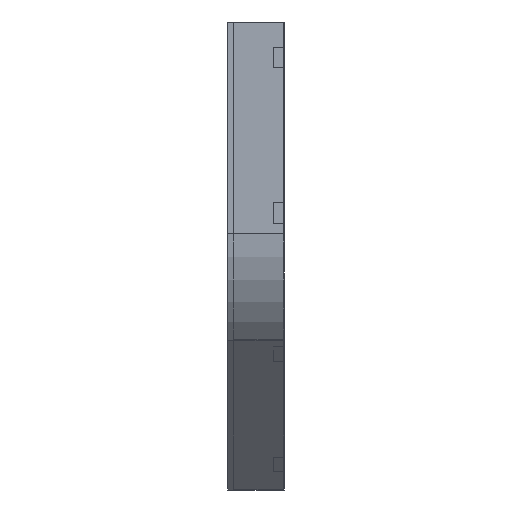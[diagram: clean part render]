
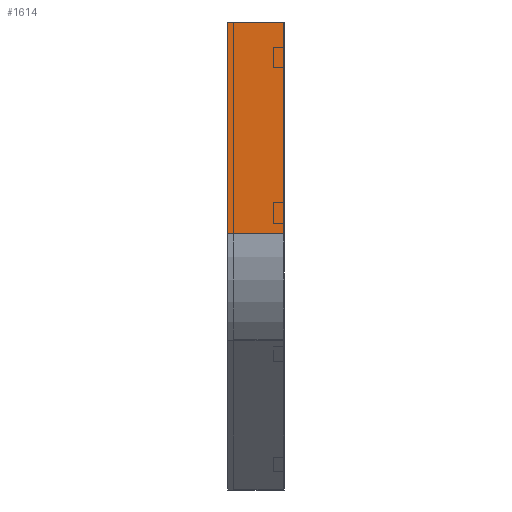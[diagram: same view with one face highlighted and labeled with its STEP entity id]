
A CAD part, left-side view. The second image highlights one B-rep face of the part: STEP entity #1614.
In plain terms, the highlighted planar face has unit normal (-1, 0, 0).
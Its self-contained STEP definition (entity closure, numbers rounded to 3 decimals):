
#36 = DIRECTION ( 'NONE',  ( 0., -1., 0. ) ) ;
#104 = AXIS2_PLACEMENT_3D ( 'NONE', #1444, #736, #972 ) ;
#122 = CARTESIAN_POINT ( 'NONE',  ( 0., 0., -422.792 ) ) ;
#124 = ORIENTED_EDGE ( 'NONE', *, *, #475, .T. ) ;
#131 = CARTESIAN_POINT ( 'NONE',  ( 0., 112.5, 0. ) ) ;
#135 = DIRECTION ( 'NONE',  ( 0., 0., -1. ) ) ;
#176 = LINE ( 'NONE', #1329, #1771 ) ;
#284 = FACE_OUTER_BOUND ( 'NONE', #308, .T. ) ;
#287 = CARTESIAN_POINT ( 'NONE',  ( 0., 0., 0. ) ) ;
#297 = LINE ( 'NONE', #287, #329 ) ;
#308 = EDGE_LOOP ( 'NONE', ( #642, #1865, #420, #124 ) ) ;
#314 = VECTOR ( 'NONE', #762, 1000. ) ;
#329 = VECTOR ( 'NONE', #135, 1000. ) ;
#420 = ORIENTED_EDGE ( 'NONE', *, *, #1595, .T. ) ;
#431 = PLANE ( 'NONE',  #104 ) ;
#475 = EDGE_CURVE ( 'NONE', #1072, #1845, #637, .T. ) ;
#637 = LINE ( 'NONE', #911, #314 ) ;
#642 = ORIENTED_EDGE ( 'NONE', *, *, #1342, .F. ) ;
#736 = DIRECTION ( 'NONE',  ( 1., 0., 0. ) ) ;
#748 = VERTEX_POINT ( 'NONE', #131 ) ;
#762 = DIRECTION ( 'NONE',  ( 0., -1., 0. ) ) ;
#827 = EDGE_CURVE ( 'NONE', #748, #1349, #176, .T. ) ;
#911 = CARTESIAN_POINT ( 'NONE',  ( 0., 0., -422.792 ) ) ;
#946 = CARTESIAN_POINT ( 'NONE',  ( 0., 112.5, -422.792 ) ) ;
#972 = DIRECTION ( 'NONE',  ( 0., 0., -1. ) ) ;
#981 = DIRECTION ( 'NONE',  ( 0., 0., -1. ) ) ;
#1072 = VERTEX_POINT ( 'NONE', #946 ) ;
#1109 = CARTESIAN_POINT ( 'NONE',  ( 0., 112.5, 0. ) ) ;
#1122 = CARTESIAN_POINT ( 'NONE',  ( 0., 0., 0. ) ) ;
#1329 = CARTESIAN_POINT ( 'NONE',  ( 0., 0., 0. ) ) ;
#1342 = EDGE_CURVE ( 'NONE', #1349, #1845, #297, .T. ) ;
#1349 = VERTEX_POINT ( 'NONE', #1122 ) ;
#1444 = CARTESIAN_POINT ( 'NONE',  ( 0., 0., 0. ) ) ;
#1595 = EDGE_CURVE ( 'NONE', #748, #1072, #1646, .T. ) ;
#1614 = ADVANCED_FACE ( 'NONE', ( #284 ), #431, .F. ) ;
#1646 = LINE ( 'NONE', #1109, #1711 ) ;
#1711 = VECTOR ( 'NONE', #981, 1000. ) ;
#1771 = VECTOR ( 'NONE', #36, 1000. ) ;
#1845 = VERTEX_POINT ( 'NONE', #122 ) ;
#1865 = ORIENTED_EDGE ( 'NONE', *, *, #827, .F. ) ;
